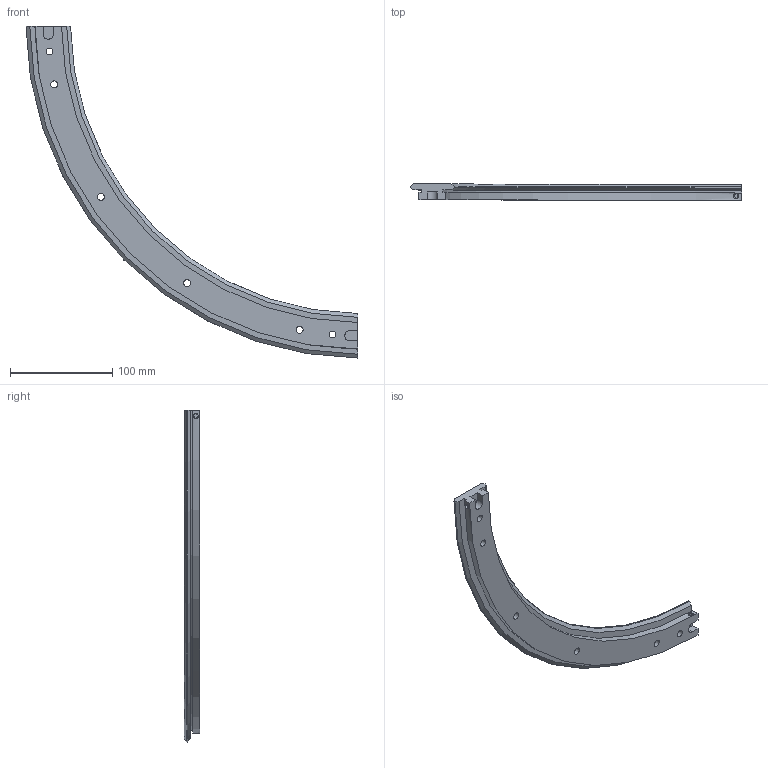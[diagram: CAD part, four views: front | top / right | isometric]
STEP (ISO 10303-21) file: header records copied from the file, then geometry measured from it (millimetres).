
FILE_DESCRIPTION(/* description */ ('STEP AP203'),/* implementation_level */ '2;1');
FILE_NAME(/* name */ 'TR44 612 R90',/* time_stamp */ '2022-06-28T08:58:42+02:00',/* author */ ('License CC BY-ND 4.0'),/* organization */ ('CADENAS'),/* preprocessor_version */ 'ST-DEVELOPER v18.102',/* originating_system */ 'PARTsolutions',/* authorisation */ ' ');
FILE_SCHEMA (('CONFIG_CONTROL_DESIGN'));
Length unit declared in the file: millimetre
Products named in the file (1): TR44 612 R90
Bounding box: 325.29 x 15.5 x 325.29 mm (x, y, z)
Volume: 218719.5 mm3; surface area: 61196.3 mm2
Topology: 1 solids, 1 shells, 80 faces, 194 edges, 130 vertices
Faces by surface type: plane 52, cylinder 22, cone 4, torus 2
Full cylindrical faces by diameter (mm): 5 x4, 6.8 x6, 11 x6
Entity records: 2346 total; most frequent: CARTESIAN_POINT 465, DIRECTION 370, ORIENTED_EDGE 352, EDGE_CURVE 176, AXIS2_PLACEMENT_3D 129, VERTEX_POINT 128, EDGE_LOOP 122, FACE_BOUND 122
